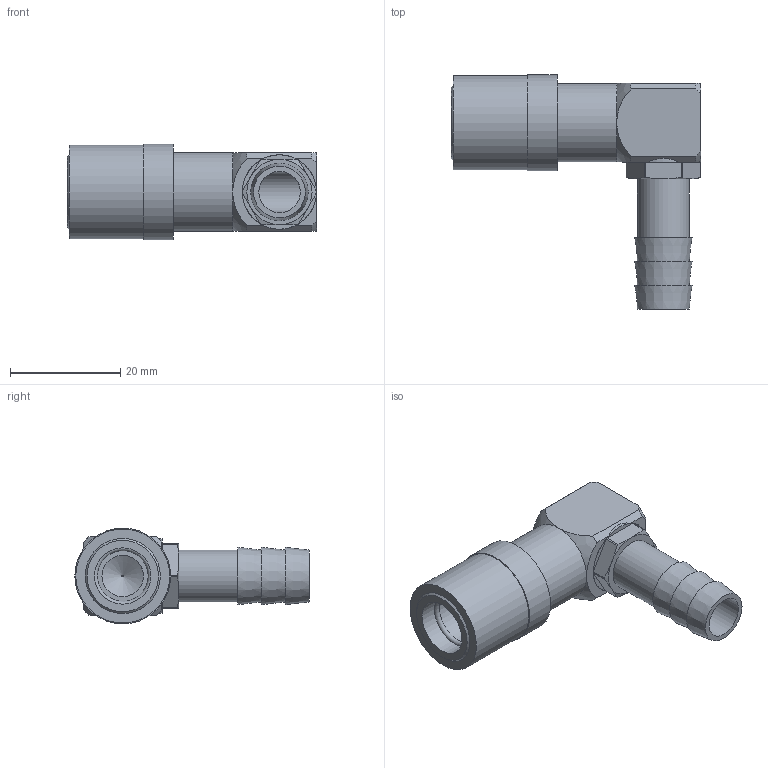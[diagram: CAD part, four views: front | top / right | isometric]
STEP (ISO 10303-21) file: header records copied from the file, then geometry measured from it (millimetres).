
FILE_DESCRIPTION(/* description */ ('STEP AP214'),/* implementation_level */ '2;1');
FILE_NAME(/* name */ 'JS-216-V',/* time_stamp */ '2024-12-19T08:41:13+01:00',/* author */ ('License CC BY-ND 4.0'),/* organization */ ('CADENAS'),/* preprocessor_version */ 'ST-DEVELOPER v19.3',/* originating_system */ 'PARTsolutions',/* authorisation */ ' ');
FILE_SCHEMA (('AUTOMOTIVE_DESIGN {1 0 10303 214 3 1 1}'));
Length unit declared in the file: inch
Products named in the file (1): JS-216-V
Bounding box: 45.2 x 42.46 x 17.36 mm (x, y, z)
Volume: 7524.6 mm3; surface area: 5512.3 mm2
Topology: 1 solids, 1 shells, 61 faces, 142 edges, 91 vertices
Faces by surface type: plane 32, cone 11, cylinder 9, sphere 8, torus 1
Full cylindrical faces by diameter (mm): 7.518 x2, 9.398 x1, 10.211 x2, 13.485 x1, 14.224 x1, 17.018 x1, 17.358 x1
Entity records: 1728 total; most frequent: CARTESIAN_POINT 318, DIRECTION 314, ORIENTED_EDGE 250, AXIS2_PLACEMENT_3D 141, EDGE_CURVE 125, VERTEX_POINT 89, EDGE_LOOP 88, FACE_BOUND 88
